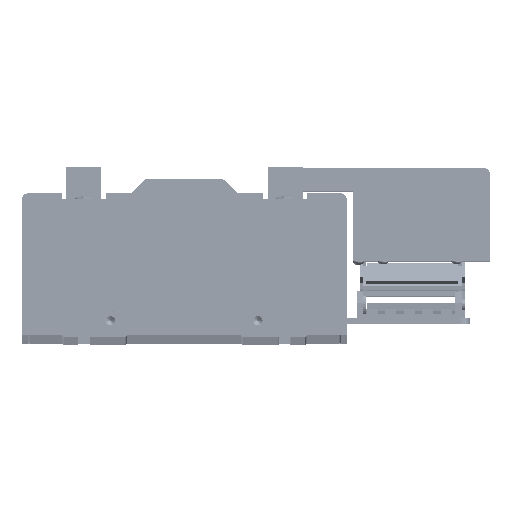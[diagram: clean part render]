
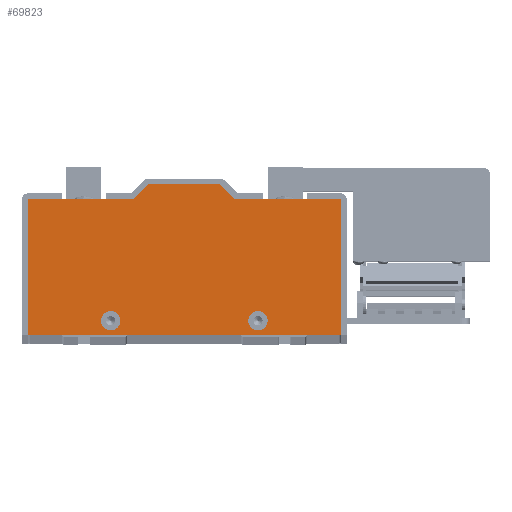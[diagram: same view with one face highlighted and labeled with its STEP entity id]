
A CAD part, top view. The second image highlights one B-rep face of the part: STEP entity #69823.
In plain terms, the highlighted planar face has unit normal (0, 0, 1).
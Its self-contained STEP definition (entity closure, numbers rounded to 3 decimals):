
#2741 = CARTESIAN_POINT ( 'NONE',  ( -85., 37., 9.525 ) ) ;
#5554 = CARTESIAN_POINT ( 'NONE',  ( -85., -37., 9.525 ) ) ;
#5698 = DIRECTION ( 'NONE',  ( 0., -1., 0. ) ) ;
#5699 = VECTOR ( 'NONE', #5698, 1000. ) ;
#5701 = CARTESIAN_POINT ( 'NONE',  ( -85., 37., 9.525 ) ) ;
#5702 = LINE ( 'NONE', #5701, #5699 ) ;
#5708 = CARTESIAN_POINT ( 'NONE',  ( -45.25, -29., 9.525 ) ) ;
#5791 = CARTESIAN_POINT ( 'NONE',  ( -34.75, -29., 9.525 ) ) ;
#5794 = DIRECTION ( 'NONE',  ( 1., 0., 0. ) ) ;
#5796 = DIRECTION ( 'NONE',  ( 0., 0., 1. ) ) ;
#5798 = CARTESIAN_POINT ( 'NONE',  ( -40., -29., 9.525 ) ) ;
#5800 = AXIS2_PLACEMENT_3D ( 'NONE', #5798, #5796, #5794 ) ;
#5802 = CIRCLE ( 'NONE', #5800, 5.25 ) ;
#6323 = DIRECTION ( 'NONE',  ( 1., 0., 0. ) ) ;
#6324 = DIRECTION ( 'NONE',  ( 0., 0., 1. ) ) ;
#6325 = CARTESIAN_POINT ( 'NONE',  ( -40., -29., 9.525 ) ) ;
#6326 = AXIS2_PLACEMENT_3D ( 'NONE', #6325, #6324, #6323 ) ;
#6327 = CIRCLE ( 'NONE', #6326, 5.25 ) ;
#6346 = DIRECTION ( 'NONE',  ( 0., 1., 0. ) ) ;
#6347 = VECTOR ( 'NONE', #6346, 1000. ) ;
#6348 = CARTESIAN_POINT ( 'NONE',  ( 85., 37., 9.525 ) ) ;
#6349 = LINE ( 'NONE', #6348, #6347 ) ;
#6365 = DIRECTION ( 'NONE',  ( 1., 0., 0. ) ) ;
#6366 = VECTOR ( 'NONE', #6365, 1000. ) ;
#6367 = CARTESIAN_POINT ( 'NONE',  ( -85., -37., 9.525 ) ) ;
#6368 = LINE ( 'NONE', #6367, #6366 ) ;
#6388 = DIRECTION ( 'NONE',  ( 1., 0., 0. ) ) ;
#6389 = DIRECTION ( 'NONE',  ( 0., 0., 1. ) ) ;
#6390 = CARTESIAN_POINT ( 'NONE',  ( 40., -29., 9.525 ) ) ;
#6391 = AXIS2_PLACEMENT_3D ( 'NONE', #6390, #6389, #6388 ) ;
#6392 = CIRCLE ( 'NONE', #6391, 5.25 ) ;
#6412 = CARTESIAN_POINT ( 'NONE',  ( 45.25, -29., 9.525 ) ) ;
#6420 = DIRECTION ( 'NONE',  ( 1., 0., 0. ) ) ;
#6421 = DIRECTION ( 'NONE',  ( 0., 0., 1. ) ) ;
#6422 = CARTESIAN_POINT ( 'NONE',  ( 40., -29., 9.525 ) ) ;
#6423 = AXIS2_PLACEMENT_3D ( 'NONE', #6422, #6421, #6420 ) ;
#6424 = CIRCLE ( 'NONE', #6423, 5.25 ) ;
#6426 = CARTESIAN_POINT ( 'NONE',  ( 34.75, -29., 9.525 ) ) ;
#6543 = CARTESIAN_POINT ( 'NONE',  ( 85., -37., 9.525 ) ) ;
#6590 = CARTESIAN_POINT ( 'NONE',  ( 85., 37., 9.525 ) ) ;
#6595 = DIRECTION ( 'NONE',  ( -1., 0., 0. ) ) ;
#6596 = VECTOR ( 'NONE', #6595, 1000. ) ;
#6597 = CARTESIAN_POINT ( 'NONE',  ( 27.5, 37., 9.525 ) ) ;
#6598 = LINE ( 'NONE', #6597, #6596 ) ;
#6599 = CARTESIAN_POINT ( 'NONE',  ( 27.5, 37., 9.525 ) ) ;
#6606 = DIRECTION ( 'NONE',  ( -0.707, 0.707, 0. ) ) ;
#6607 = VECTOR ( 'NONE', #6606, 1000. ) ;
#6608 = CARTESIAN_POINT ( 'NONE',  ( 19.5, 45., 9.525 ) ) ;
#6609 = LINE ( 'NONE', #6608, #6607 ) ;
#6617 = CARTESIAN_POINT ( 'NONE',  ( 19.5, 45., 9.525 ) ) ;
#6649 = DIRECTION ( 'NONE',  ( -1., 0., 0. ) ) ;
#6650 = VECTOR ( 'NONE', #6649, 1000. ) ;
#6651 = CARTESIAN_POINT ( 'NONE',  ( -19.5, 45., 9.525 ) ) ;
#6652 = LINE ( 'NONE', #6651, #6650 ) ;
#6653 = CARTESIAN_POINT ( 'NONE',  ( -19.5, 45., 9.525 ) ) ;
#6687 = CARTESIAN_POINT ( 'NONE',  ( -27.5, 37., 9.525 ) ) ;
#6711 = DIRECTION ( 'NONE',  ( 1., 0., 0. ) ) ;
#6712 = DIRECTION ( 'NONE',  ( 0., 0., 1. ) ) ;
#6713 = CARTESIAN_POINT ( 'NONE',  ( -85., 37., 9.525 ) ) ;
#6714 = AXIS2_PLACEMENT_3D ( 'NONE', #6713, #6712, #6711 ) ;
#6715 = PLANE ( 'NONE',  #6714 ) ;
#6716 = FACE_OUTER_BOUND ( 'NONE', #69536, .T. ) ;
#6717 = FACE_BOUND ( 'NONE', #69476, .T. ) ;
#6718 = FACE_BOUND ( 'NONE', #69822, .T. ) ;
#6719 = DIRECTION ( 'NONE',  ( -1., 0., 0. ) ) ;
#6721 = VECTOR ( 'NONE', #6719, 1000. ) ;
#6722 = CARTESIAN_POINT ( 'NONE',  ( -85., 37., 9.525 ) ) ;
#6723 = LINE ( 'NONE', #6722, #6721 ) ;
#6737 = DIRECTION ( 'NONE',  ( -0.707, -0.707, 0. ) ) ;
#6738 = VECTOR ( 'NONE', #6737, 1000. ) ;
#6740 = CARTESIAN_POINT ( 'NONE',  ( -27.5, 37., 9.525 ) ) ;
#6741 = LINE ( 'NONE', #6740, #6738 ) ;
#68153 = VERTEX_POINT ( 'NONE', #2741 ) ;
#69083 = VERTEX_POINT ( 'NONE', #5554 ) ;
#69085 = EDGE_CURVE ( 'NONE', #68153, #69083, #5702, .T. ) ;
#69165 = VERTEX_POINT ( 'NONE', #5708 ) ;
#69186 = EDGE_CURVE ( 'NONE', #69165, #69188, #5802, .T. ) ;
#69188 = VERTEX_POINT ( 'NONE', #5791 ) ;
#69469 = EDGE_CURVE ( 'NONE', #69188, #69165, #6327, .T. ) ;
#69473 = ORIENTED_EDGE ( 'NONE', *, *, #69186, .F. ) ;
#69476 = EDGE_LOOP ( 'NONE', ( #69914, #69535 ) ) ;
#69492 = EDGE_CURVE ( 'NONE', #69083, #69693, #6368, .T. ) ;
#69502 = EDGE_CURVE ( 'NONE', #69693, #69714, #6349, .T. ) ;
#69529 = ORIENTED_EDGE ( 'NONE', *, *, #69753, .T. ) ;
#69532 = ORIENTED_EDGE ( 'NONE', *, *, #69771, .T. ) ;
#69533 = EDGE_CURVE ( 'NONE', #69576, #69570, #6392, .T. ) ;
#69535 = ORIENTED_EDGE ( 'NONE', *, *, #69572, .F. ) ;
#69536 = EDGE_LOOP ( 'NONE', ( #69658, #69659, #70181, #69690, #69529, #69532, #70097, #70100 ) ) ;
#69570 = VERTEX_POINT ( 'NONE', #6426 ) ;
#69572 = EDGE_CURVE ( 'NONE', #69570, #69576, #6424, .T. ) ;
#69576 = VERTEX_POINT ( 'NONE', #6412 ) ;
#69658 = ORIENTED_EDGE ( 'NONE', *, *, #69085, .T. ) ;
#69659 = ORIENTED_EDGE ( 'NONE', *, *, #69492, .T. ) ;
#69690 = ORIENTED_EDGE ( 'NONE', *, *, #69703, .T. ) ;
#69693 = VERTEX_POINT ( 'NONE', #6543 ) ;
#69699 = VERTEX_POINT ( 'NONE', #6599 ) ;
#69703 = EDGE_CURVE ( 'NONE', #69714, #69699, #6598, .T. ) ;
#69714 = VERTEX_POINT ( 'NONE', #6590 ) ;
#69748 = VERTEX_POINT ( 'NONE', #6617 ) ;
#69753 = EDGE_CURVE ( 'NONE', #69699, #69748, #6609, .T. ) ;
#69769 = VERTEX_POINT ( 'NONE', #6653 ) ;
#69771 = EDGE_CURVE ( 'NONE', #69748, #69769, #6652, .T. ) ;
#69788 = VERTEX_POINT ( 'NONE', #6687 ) ;
#69806 = EDGE_CURVE ( 'NONE', #69769, #69788, #6741, .T. ) ;
#69820 = EDGE_CURVE ( 'NONE', #69788, #68153, #6723, .T. ) ;
#69822 = EDGE_LOOP ( 'NONE', ( #69824, #69473 ) ) ;
#69823 = ADVANCED_FACE ( 'NONE', ( #6718, #6717, #6716 ), #6715, .T. ) ;
#69824 = ORIENTED_EDGE ( 'NONE', *, *, #69469, .F. ) ;
#69914 = ORIENTED_EDGE ( 'NONE', *, *, #69533, .F. ) ;
#70097 = ORIENTED_EDGE ( 'NONE', *, *, #69806, .T. ) ;
#70100 = ORIENTED_EDGE ( 'NONE', *, *, #69820, .T. ) ;
#70181 = ORIENTED_EDGE ( 'NONE', *, *, #69502, .T. ) ;
